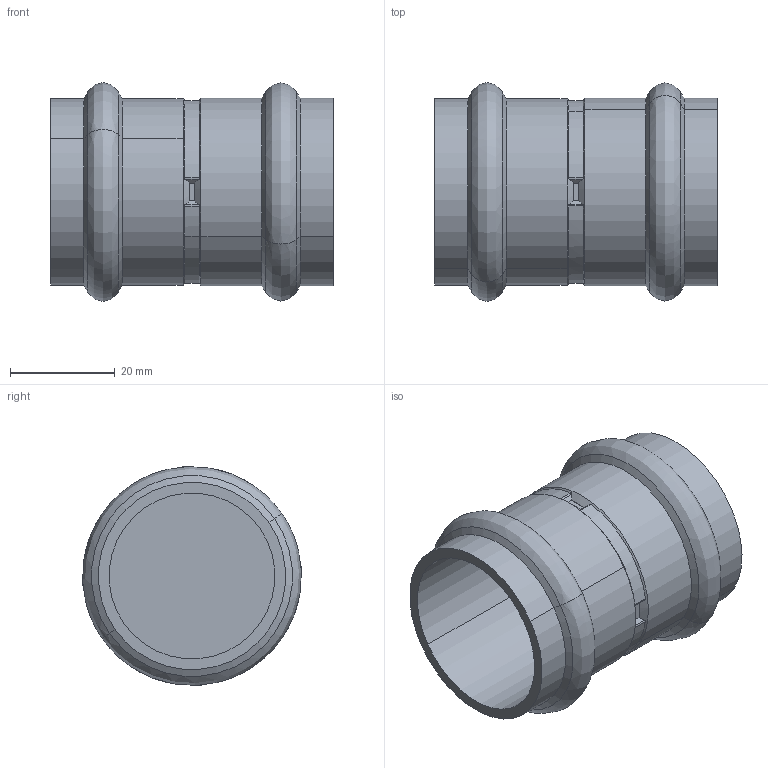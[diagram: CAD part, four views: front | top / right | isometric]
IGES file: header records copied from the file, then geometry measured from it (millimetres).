
Start section: 3D InterOp IGES (v. 2024 1.0.1), Spatial Corp. Copyright (c) 1999-2020.
Global section: file name: 704340.igs; native system: Spatial Corp.; preprocessor: 3D InterOp ACIS/IGES; author: CAD-PIM; organization: TransMagic, Inc.; date: 20250429.114420; units: millimetre
Bounding box: 54 x 41.81 x 41.81 mm (x, y, z)
Volume: 18529 mm3; surface area: 13975.4 mm2
Topology: 1 solids, 1 shells, 66 faces, 166 edges, 104 vertices
Faces by surface type: bspline 66
